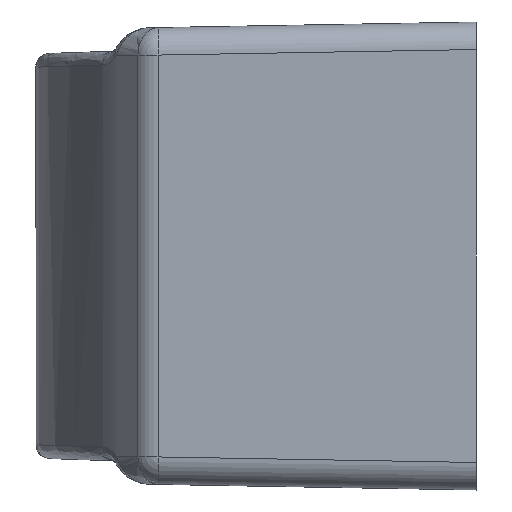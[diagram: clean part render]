
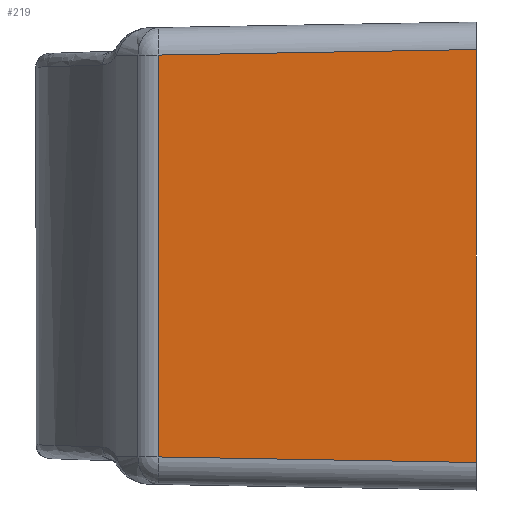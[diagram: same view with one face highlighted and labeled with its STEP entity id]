
A CAD part, left-side view. The second image highlights one B-rep face of the part: STEP entity #219.
In plain terms, the highlighted planar face has unit normal (-0.999, 0.035, 0).
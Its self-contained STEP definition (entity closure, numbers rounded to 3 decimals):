
#59 = LINE ( 'NONE', #3388, #550 ) ;
#113 = VECTOR ( 'NONE', #511, 1000. ) ;
#219 = ADVANCED_FACE ( 'NONE', ( #4522 ), #2328, .F. ) ;
#248 = CARTESIAN_POINT ( 'NONE',  ( -11., 0., 17. ) ) ;
#362 = CARTESIAN_POINT ( 'NONE',  ( -10.596, 11.555, 15.799 ) ) ;
#395 = ORIENTED_EDGE ( 'NONE', *, *, #3412, .F. ) ;
#511 = DIRECTION ( 'NONE',  ( 0.035, 0.999, -0.017 ) ) ;
#546 = LINE ( 'NONE', #1673, #2237 ) ;
#549 = DIRECTION ( 'NONE',  ( 0.035, 0.999, 0. ) ) ;
#550 = VECTOR ( 'NONE', #1587, 1000. ) ;
#586 = ORIENTED_EDGE ( 'NONE', *, *, #2508, .T. ) ;
#762 = CARTESIAN_POINT ( 'NONE',  ( -11., 0., 16. ) ) ;
#907 = VERTEX_POINT ( 'NONE', #762 ) ;
#929 = ORIENTED_EDGE ( 'NONE', *, *, #4492, .T. ) ;
#1000 = LINE ( 'NONE', #1458, #2185 ) ;
#1158 = VERTEX_POINT ( 'NONE', #362 ) ;
#1458 = CARTESIAN_POINT ( 'NONE',  ( -11.001, -0.017, 0.999 ) ) ;
#1462 = ORIENTED_EDGE ( 'NONE', *, *, #3108, .T. ) ;
#1587 = DIRECTION ( 'NONE',  ( 0., 0., -1. ) ) ;
#1592 = CARTESIAN_POINT ( 'NONE',  ( -11.001, -0.017, 16.001 ) ) ;
#1673 = CARTESIAN_POINT ( 'NONE',  ( -10.596, 11.555, 17. ) ) ;
#1877 = CARTESIAN_POINT ( 'NONE',  ( -10.596, 11.555, 1.201 ) ) ;
#1952 = CARTESIAN_POINT ( 'NONE',  ( -11., 0., 1. ) ) ;
#2185 = VECTOR ( 'NONE', #3586, 1000. ) ;
#2237 = VECTOR ( 'NONE', #4234, 1000. ) ;
#2328 = PLANE ( 'NONE',  #2721 ) ;
#2362 = DIRECTION ( 'NONE',  ( 0.999, -0.035, 0. ) ) ;
#2508 = EDGE_CURVE ( 'NONE', #2668, #2744, #1000, .T. ) ;
#2668 = VERTEX_POINT ( 'NONE', #1877 ) ;
#2721 = AXIS2_PLACEMENT_3D ( 'NONE', #248, #2362, #549 ) ;
#2744 = VERTEX_POINT ( 'NONE', #1952 ) ;
#3108 = EDGE_CURVE ( 'NONE', #907, #1158, #3694, .T. ) ;
#3388 = CARTESIAN_POINT ( 'NONE',  ( -11., 0., 17. ) ) ;
#3412 = EDGE_CURVE ( 'NONE', #907, #2744, #59, .T. ) ;
#3428 = EDGE_LOOP ( 'NONE', ( #929, #586, #395, #1462 ) ) ;
#3586 = DIRECTION ( 'NONE',  ( -0.035, -0.999, -0.017 ) ) ;
#3694 = LINE ( 'NONE', #1592, #113 ) ;
#4234 = DIRECTION ( 'NONE',  ( 0., 0., -1. ) ) ;
#4492 = EDGE_CURVE ( 'NONE', #1158, #2668, #546, .T. ) ;
#4522 = FACE_OUTER_BOUND ( 'NONE', #3428, .T. ) ;
